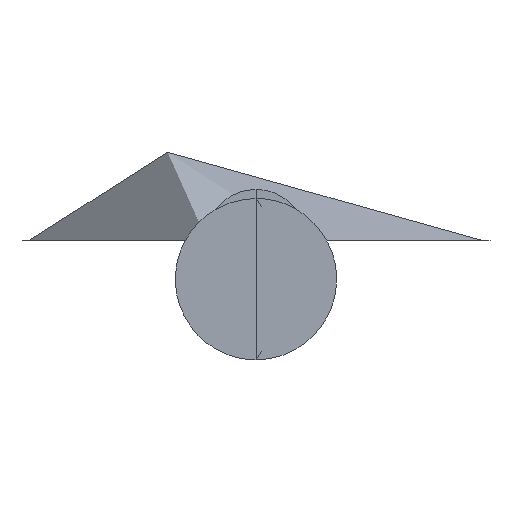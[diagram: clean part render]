
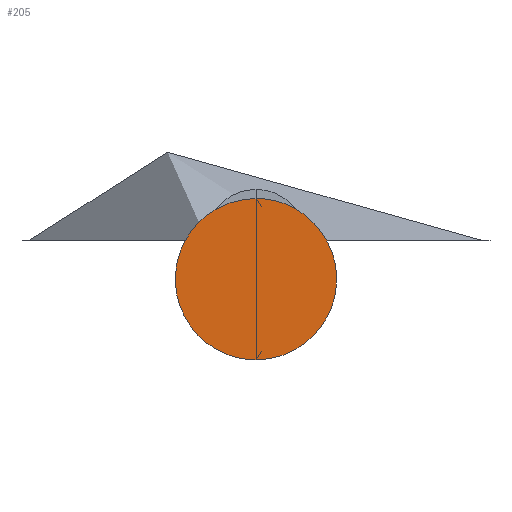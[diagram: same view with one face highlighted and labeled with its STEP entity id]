
A CAD part, top view. The second image highlights one B-rep face of the part: STEP entity #205.
In plain terms, the highlighted planar face has unit normal (0, 0, 1).
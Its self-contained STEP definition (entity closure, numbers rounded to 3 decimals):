
#57=PLANE('',#919);
#205=ADVANCED_FACE('',(#246),#57,.T.);
#246=FACE_OUTER_BOUND('',#290,.T.);
#290=EDGE_LOOP('',(#445,#446));
#445=ORIENTED_EDGE('',*,*,#585,.T.);
#446=ORIENTED_EDGE('',*,*,#586,.T.);
#585=EDGE_CURVE('',#834,#835,#709,.T.);
#586=EDGE_CURVE('',#835,#834,#710,.T.);
#709=(
BOUNDED_CURVE()
B_SPLINE_CURVE(2,(#2401,#2402,#2403,#2404,#2405),.UNSPECIFIED.,.F.,.F.)
B_SPLINE_CURVE_WITH_KNOTS((3,2,3),(-17.047,-12.785,
-8.523),.UNSPECIFIED.)
CURVE()
GEOMETRIC_REPRESENTATION_ITEM()
RATIONAL_B_SPLINE_CURVE((1.,0.707,1.,0.707,
1.))
REPRESENTATION_ITEM('')
);
#710=(
BOUNDED_CURVE()
B_SPLINE_CURVE(2,(#2406,#2407,#2408,#2409,#2410),.UNSPECIFIED.,.F.,.F.)
B_SPLINE_CURVE_WITH_KNOTS((3,2,3),(-8.523,-4.262,0.),
 .UNSPECIFIED.)
CURVE()
GEOMETRIC_REPRESENTATION_ITEM()
RATIONAL_B_SPLINE_CURVE((1.,0.707,1.,0.707,
1.))
REPRESENTATION_ITEM('')
);
#834=VERTEX_POINT('',#2399);
#835=VERTEX_POINT('',#2400);
#919=AXIS2_PLACEMENT_3D('',#2398,#943,$);
#943=DIRECTION('',(0.,0.,1.));
#2398=CARTESIAN_POINT('',(-79.018,11.198,601.608));
#2399=CARTESIAN_POINT('',(0.,156.035,601.608));
#2400=CARTESIAN_POINT('',(0.,24.398,601.608));
#2401=CARTESIAN_POINT('',(0.,156.035,601.608));
#2402=CARTESIAN_POINT('',(-65.819,156.035,601.608));
#2403=CARTESIAN_POINT('',(-65.819,90.217,601.608));
#2404=CARTESIAN_POINT('',(-65.819,24.398,601.608));
#2405=CARTESIAN_POINT('',(0.,24.398,601.608));
#2406=CARTESIAN_POINT('',(0.,24.398,601.608));
#2407=CARTESIAN_POINT('',(65.819,24.398,601.608));
#2408=CARTESIAN_POINT('',(65.819,90.217,601.608));
#2409=CARTESIAN_POINT('',(65.819,156.035,601.608));
#2410=CARTESIAN_POINT('',(0.,156.035,601.608));
